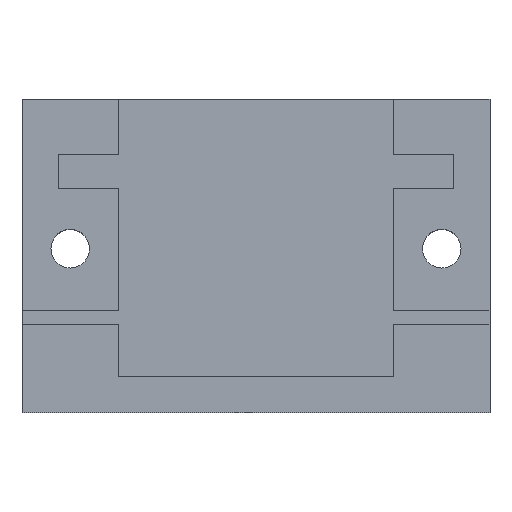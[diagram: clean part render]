
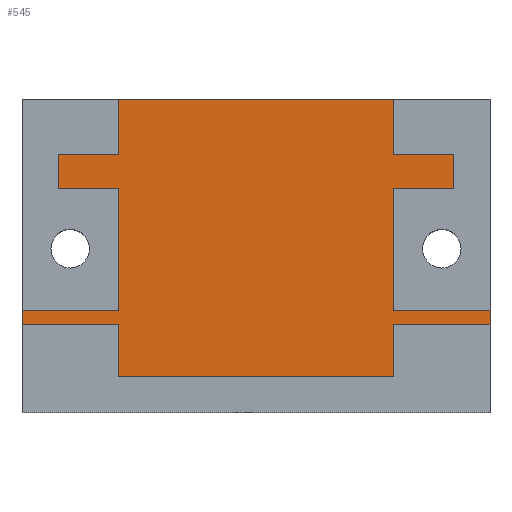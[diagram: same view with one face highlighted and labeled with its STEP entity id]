
A CAD part, top view. The second image highlights one B-rep face of the part: STEP entity #545.
In plain terms, the highlighted planar face has unit normal (0, 0, 1).
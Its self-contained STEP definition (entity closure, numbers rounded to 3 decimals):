
#25=FACE_OUTER_BOUND('',#53,.T.);
#53=EDGE_LOOP('',(#363,#364,#365,#366,#367,#368,#369,#370,#371,#372,#373,
#374,#375,#376,#377,#378,#379,#380,#381,#382));
#85=LINE('',#763,#159);
#86=LINE('',#765,#160);
#87=LINE('',#767,#161);
#88=LINE('',#769,#162);
#89=LINE('',#771,#163);
#90=LINE('',#773,#164);
#91=LINE('',#775,#165);
#92=LINE('',#777,#166);
#93=LINE('',#779,#167);
#94=LINE('',#781,#168);
#95=LINE('',#783,#169);
#96=LINE('',#785,#170);
#97=LINE('',#787,#171);
#98=LINE('',#789,#172);
#99=LINE('',#791,#173);
#100=LINE('',#793,#174);
#101=LINE('',#795,#175);
#102=LINE('',#797,#176);
#103=LINE('',#799,#177);
#104=LINE('',#800,#178);
#159=VECTOR('',#623,10.);
#160=VECTOR('',#624,10.);
#161=VECTOR('',#625,10.);
#162=VECTOR('',#626,10.);
#163=VECTOR('',#627,10.);
#164=VECTOR('',#628,10.);
#165=VECTOR('',#629,10.);
#166=VECTOR('',#630,10.);
#167=VECTOR('',#631,10.);
#168=VECTOR('',#632,10.);
#169=VECTOR('',#633,10.);
#170=VECTOR('',#634,10.);
#171=VECTOR('',#635,10.);
#172=VECTOR('',#636,10.);
#173=VECTOR('',#637,10.);
#174=VECTOR('',#638,10.);
#175=VECTOR('',#639,10.);
#176=VECTOR('',#640,10.);
#177=VECTOR('',#641,10.);
#178=VECTOR('',#642,10.);
#233=VERTEX_POINT('',#761);
#234=VERTEX_POINT('',#762);
#235=VERTEX_POINT('',#764);
#236=VERTEX_POINT('',#766);
#237=VERTEX_POINT('',#768);
#238=VERTEX_POINT('',#770);
#239=VERTEX_POINT('',#772);
#240=VERTEX_POINT('',#774);
#241=VERTEX_POINT('',#776);
#242=VERTEX_POINT('',#778);
#243=VERTEX_POINT('',#780);
#244=VERTEX_POINT('',#782);
#245=VERTEX_POINT('',#784);
#246=VERTEX_POINT('',#786);
#247=VERTEX_POINT('',#788);
#248=VERTEX_POINT('',#790);
#249=VERTEX_POINT('',#792);
#250=VERTEX_POINT('',#794);
#251=VERTEX_POINT('',#796);
#252=VERTEX_POINT('',#798);
#285=EDGE_CURVE('',#233,#234,#85,.T.);
#286=EDGE_CURVE('',#235,#233,#86,.T.);
#287=EDGE_CURVE('',#236,#235,#87,.T.);
#288=EDGE_CURVE('',#237,#236,#88,.T.);
#289=EDGE_CURVE('',#237,#238,#89,.T.);
#290=EDGE_CURVE('',#239,#238,#90,.T.);
#291=EDGE_CURVE('',#240,#239,#91,.T.);
#292=EDGE_CURVE('',#241,#240,#92,.T.);
#293=EDGE_CURVE('',#242,#241,#93,.T.);
#294=EDGE_CURVE('',#243,#242,#94,.T.);
#295=EDGE_CURVE('',#244,#243,#95,.T.);
#296=EDGE_CURVE('',#244,#245,#96,.T.);
#297=EDGE_CURVE('',#246,#245,#97,.T.);
#298=EDGE_CURVE('',#247,#246,#98,.T.);
#299=EDGE_CURVE('',#248,#247,#99,.T.);
#300=EDGE_CURVE('',#249,#248,#100,.T.);
#301=EDGE_CURVE('',#250,#249,#101,.T.);
#302=EDGE_CURVE('',#250,#251,#102,.T.);
#303=EDGE_CURVE('',#252,#251,#103,.T.);
#304=EDGE_CURVE('',#234,#252,#104,.T.);
#363=ORIENTED_EDGE('',*,*,#285,.F.);
#364=ORIENTED_EDGE('',*,*,#286,.F.);
#365=ORIENTED_EDGE('',*,*,#287,.F.);
#366=ORIENTED_EDGE('',*,*,#288,.F.);
#367=ORIENTED_EDGE('',*,*,#289,.T.);
#368=ORIENTED_EDGE('',*,*,#290,.F.);
#369=ORIENTED_EDGE('',*,*,#291,.F.);
#370=ORIENTED_EDGE('',*,*,#292,.F.);
#371=ORIENTED_EDGE('',*,*,#293,.F.);
#372=ORIENTED_EDGE('',*,*,#294,.F.);
#373=ORIENTED_EDGE('',*,*,#295,.F.);
#374=ORIENTED_EDGE('',*,*,#296,.T.);
#375=ORIENTED_EDGE('',*,*,#297,.F.);
#376=ORIENTED_EDGE('',*,*,#298,.F.);
#377=ORIENTED_EDGE('',*,*,#299,.F.);
#378=ORIENTED_EDGE('',*,*,#300,.F.);
#379=ORIENTED_EDGE('',*,*,#301,.F.);
#380=ORIENTED_EDGE('',*,*,#302,.T.);
#381=ORIENTED_EDGE('',*,*,#303,.F.);
#382=ORIENTED_EDGE('',*,*,#304,.F.);
#519=PLANE('',#587);
#545=ADVANCED_FACE('',(#25),#519,.T.);
#587=AXIS2_PLACEMENT_3D('',#760,#621,#622);
#621=DIRECTION('center_axis',(0.,0.,1.));
#622=DIRECTION('ref_axis',(1.,0.,0.));
#623=DIRECTION('',(-1.,0.,0.));
#624=DIRECTION('',(0.,-1.,0.));
#625=DIRECTION('',(1.,0.,0.));
#626=DIRECTION('',(0.,-1.,0.));
#627=DIRECTION('',(-1.,0.,0.));
#628=DIRECTION('',(0.,1.,0.));
#629=DIRECTION('',(1.,0.,0.));
#630=DIRECTION('',(0.,1.,0.));
#631=DIRECTION('',(-1.,0.,0.));
#632=DIRECTION('',(0.,1.,0.));
#633=DIRECTION('',(1.,0.,0.));
#634=DIRECTION('',(0.,-1.,0.));
#635=DIRECTION('',(-1.,0.,0.));
#636=DIRECTION('',(0.,1.,0.));
#637=DIRECTION('',(-1.,0.,0.));
#638=DIRECTION('',(0.,-1.,0.));
#639=DIRECTION('',(-1.,0.,0.));
#640=DIRECTION('',(0.,1.,0.));
#641=DIRECTION('',(1.,0.,0.));
#642=DIRECTION('',(0.,-1.,0.));
#760=CARTESIAN_POINT('Origin',(0.,1.5,3.));
#761=CARTESIAN_POINT('',(16.4,5.6,3.));
#762=CARTESIAN_POINT('',(11.4,5.6,3.));
#763=CARTESIAN_POINT('',(8.2,5.6,3.));
#764=CARTESIAN_POINT('',(16.4,8.4,3.));
#765=CARTESIAN_POINT('',(16.4,4.95,3.));
#766=CARTESIAN_POINT('',(11.4,8.4,3.));
#767=CARTESIAN_POINT('',(5.7,8.4,3.));
#768=CARTESIAN_POINT('',(11.4,13.,3.));
#769=CARTESIAN_POINT('',(11.4,7.25,3.));
#770=CARTESIAN_POINT('',(-11.4,13.,3.));
#771=CARTESIAN_POINT('',(-19.4,13.,3.));
#772=CARTESIAN_POINT('',(-11.4,8.4,3.));
#773=CARTESIAN_POINT('',(-11.4,4.95,3.));
#774=CARTESIAN_POINT('',(-16.4,8.4,3.));
#775=CARTESIAN_POINT('',(-8.2,8.4,3.));
#776=CARTESIAN_POINT('',(-16.4,5.6,3.));
#777=CARTESIAN_POINT('',(-16.4,3.55,3.));
#778=CARTESIAN_POINT('',(-11.4,5.6,3.));
#779=CARTESIAN_POINT('',(-5.7,5.6,3.));
#780=CARTESIAN_POINT('',(-11.4,-4.5,3.));
#781=CARTESIAN_POINT('',(-11.4,-1.5,3.));
#782=CARTESIAN_POINT('',(-19.4,-4.5,3.));
#783=CARTESIAN_POINT('',(-9.7,-4.5,3.));
#784=CARTESIAN_POINT('',(-19.4,-5.7,3.));
#785=CARTESIAN_POINT('',(-19.4,-5.7,3.));
#786=CARTESIAN_POINT('',(-11.4,-5.7,3.));
#787=CARTESIAN_POINT('',(-5.7,-5.7,3.));
#788=CARTESIAN_POINT('',(-11.4,-10.,3.));
#789=CARTESIAN_POINT('',(-11.4,-4.25,3.));
#790=CARTESIAN_POINT('',(11.4,-10.,3.));
#791=CARTESIAN_POINT('',(5.7,-10.,3.));
#792=CARTESIAN_POINT('',(11.4,-5.7,3.));
#793=CARTESIAN_POINT('',(11.4,-2.1,3.));
#794=CARTESIAN_POINT('',(19.4,-5.7,3.));
#795=CARTESIAN_POINT('',(9.7,-5.7,3.));
#796=CARTESIAN_POINT('',(19.4,-4.5,3.));
#797=CARTESIAN_POINT('',(19.4,-4.5,3.));
#798=CARTESIAN_POINT('',(11.4,-4.5,3.));
#799=CARTESIAN_POINT('',(5.7,-4.5,3.));
#800=CARTESIAN_POINT('',(11.4,3.55,3.));
